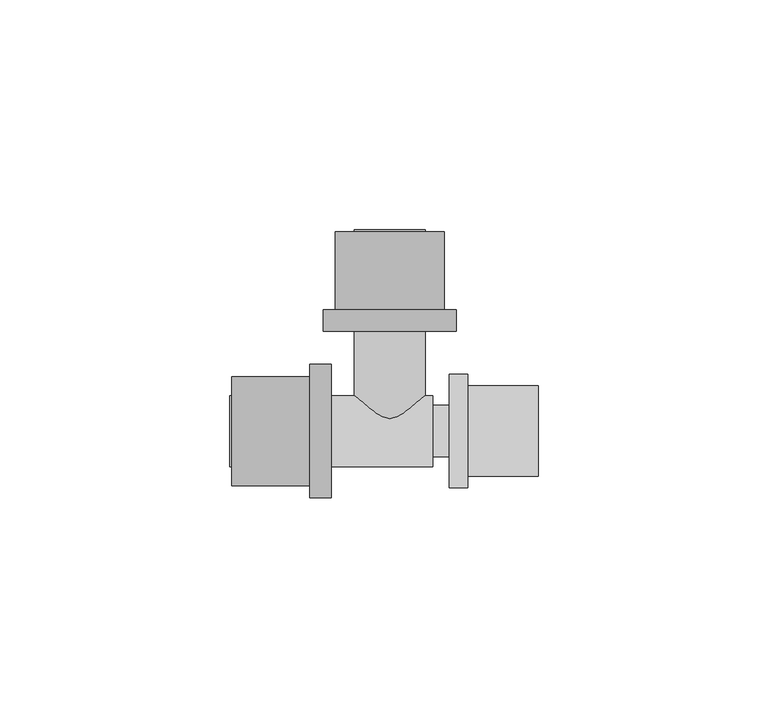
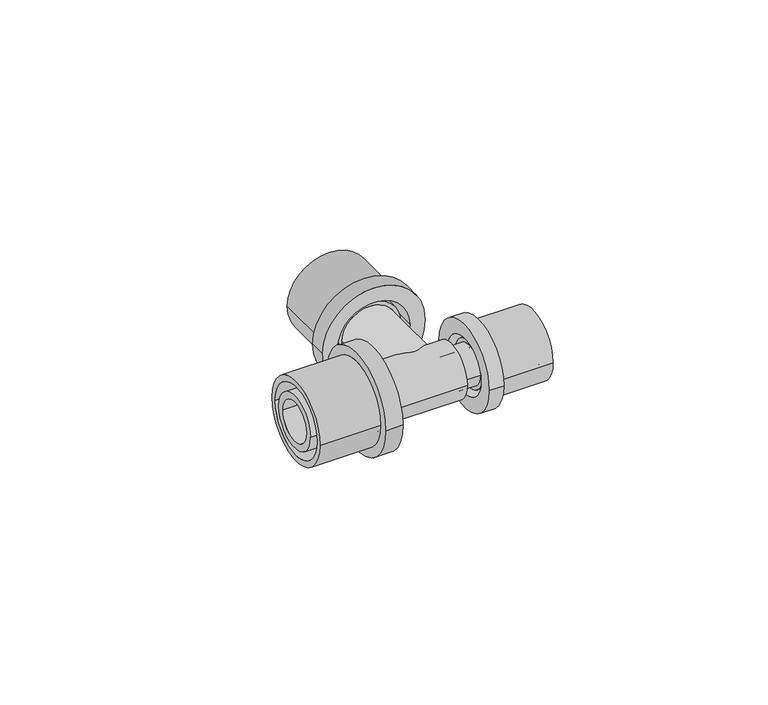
"""IFC4 building model written with IfcOpenShell, lengths in millimetres: pipe fitting geometry, FASTLOC_T-piece_EX+ : FSL T-Piece EX+ AT."""

from ifc_helpers import new_model, si_unit, frame, origin, place, context, project, spatial, polyline, circle_curve, source, transform, mapped, element, save
from ifc_brep_helpers import plane_surface, cylinder_surface, revolved_surface, advanced_brep


def pipe_fitting_0153befe(model_context):
    return source(origin(), model_context, "Body", "AdvancedBrep", [
        advanced_brep(
        [(17.0, 12.35, 0.0), (17.0, -12.35, 0.0), (13.0, -12.35, 0.0), (13.0, 12.35, 0.0), (32.3, 9.85, 0.0), (32.3, -9.85, 0.0), (17.0, -9.85, 0.0), (17.0, 9.85, 0.0), (13.0, 8.15, 0.0), (13.0, -8.15, 0.0), (32.3, -8.15, 0.0), (32.3, 8.15, 0.0)],
        [
            (0, 1, circle_curve(frame((17.0, 0.0, 0.0), z_axis=(-1.0, 0.0, 0.0), x_axis=(0.0, -1.0, 0.0)), 12.35)),
            (1, 2),
            (2, 3, circle_curve(frame((13.0, 0.0, 0.0), z_axis=(1.0, 0.0, 0.0), x_axis=(0.0, -1.0, 0.0)), 12.35)),
            (3, 0),
            (4, 5, circle_curve(frame((32.3, 0.0, 0.0), z_axis=(-1.0, 0.0, 0.0), x_axis=(0.0, -1.0, 0.0)), 9.85)),
            (5, 6),
            (6, 7, circle_curve(frame((17.0, 0.0, 0.0), z_axis=(1.0, 0.0, 0.0), x_axis=(0.0, -1.0, 0.0)), 9.85)),
            (7, 4),
            (8, 9, circle_curve(frame((13.0, 0.0, 0.0), z_axis=(-1.0, 0.0, 0.0), x_axis=(0.0, -1.0, 0.0)), 8.15)),
            (9, 10),
            (10, 11, circle_curve(frame((32.3, 0.0, 0.0), z_axis=(1.0, 0.0, 0.0), x_axis=(0.0, -1.0, 0.0)), 8.15)),
            (11, 8),
            (1, 0, circle_curve(frame((17.0, 0.0, 0.0), z_axis=(-1.0, 0.0, 0.0), x_axis=(0.0, 1.0, 0.0)), 12.35)),
            (3, 2, circle_curve(frame((13.0, 0.0, 0.0), z_axis=(1.0, 0.0, 0.0), x_axis=(0.0, 1.0, 0.0)), 12.35)),
            (6, 7, circle_curve(frame((17.0, 0.0, 0.0), z_axis=(-1.0, 0.0, 0.0), x_axis=(0.0, 1.0, 0.0)), 9.85)),
            (5, 4, circle_curve(frame((32.3, 0.0, 0.0), z_axis=(-1.0, 0.0, 0.0), x_axis=(0.0, 1.0, 0.0)), 9.85)),
            (10, 11, circle_curve(frame((32.3, 0.0, 0.0), z_axis=(-1.0, 0.0, 0.0), x_axis=(0.0, 1.0, 0.0)), 8.15)),
            (9, 8, circle_curve(frame((13.0, 0.0, 0.0), z_axis=(-1.0, 0.0, 0.0), x_axis=(0.0, 1.0, 0.0)), 8.15)),
        ],
        [
            cylinder_surface(frame((13.0, 0.0, 0.0), z_axis=(1.0, 0.0, 0.0), x_axis=(0.0, -1.0, 0.0)), 12.35),
            cylinder_surface(frame((13.0, 0.0, 0.0), z_axis=(1.0, 0.0, 0.0), x_axis=(0.0, -1.0, 0.0)), 9.85),
            revolved_surface(polyline([(32.3, -8.15, 0.0), (13.0, -8.15, 0.0)]), (13.0, 0.0, 0.0), (1.0, 0.0, 0.0)),
            cylinder_surface(frame((13.0, 0.0, 0.0), z_axis=(1.0, 0.0, 0.0), x_axis=(0.0, 1.0, 0.0)), 12.35),
            plane_surface(frame((17.0, 0.0, 0.0), z_axis=(1.0, 0.0, 0.0), x_axis=(0.0, 1.0, 0.0))),
            cylinder_surface(frame((13.0, 0.0, 0.0), z_axis=(1.0, 0.0, 0.0), x_axis=(0.0, 1.0, 0.0)), 9.85),
            plane_surface(frame((32.3, 0.0, 0.0), z_axis=(1.0, 0.0, 0.0), x_axis=(0.0, 1.0, 0.0))),
            revolved_surface(polyline([(32.3, 8.15, 0.0), (13.0, 8.15, 0.0)]), (13.0, 0.0, 0.0), (1.0, 0.0, 0.0)),
            plane_surface(frame((13.0, 0.0, 0.0), z_axis=(-1.0, 0.0, 0.0), x_axis=(0.0, 1.0, 0.0))),
        ],
        [
            (0, [[1, 2, 3, 4]]),
            (1, [[5, 6, 7, 8]]),
            (2, [[9, 10, 11, 12]]),
            (3, [[13, -4, 14, -2]]),
            (4, [[-13, -1], [15, -7]]),
            (5, [[16, -8, -15, -6]]),
            (6, [[-16, -5], [17, -11]]),
            (7, [[18, -12, -17, -10]]),
            (8, [[-14, -3], [-18, -9]]),
        ],
    ),
        advanced_brep(
        [(-17.4, -14.5, 0.0), (-17.4, 14.5, 0.0), (-12.7, 14.5, 0.0), (-12.7, -14.5, 0.0), (-34.4, -11.85, 0.0), (-34.4, 11.85, 0.0), (-17.4, 11.85, 0.0), (-17.4, -11.85, 0.0), (-12.7, -10.15, 0.0), (-12.7, 10.15, 0.0), (-34.4, 10.15, 0.0), (-34.4, -10.15, 0.0)],
        [
            (0, 1, circle_curve(frame((-17.4, 0.0, 0.0), z_axis=(1.0, 0.0, 0.0), x_axis=(0.0, 1.0, 0.0)), 14.5)),
            (1, 2),
            (2, 3, circle_curve(frame((-12.7, 0.0, 0.0), z_axis=(-1.0, 0.0, 0.0), x_axis=(0.0, 1.0, 0.0)), 14.5)),
            (3, 0),
            (4, 5, circle_curve(frame((-34.4, 0.0, 0.0), z_axis=(1.0, 0.0, 0.0), x_axis=(0.0, 1.0, 0.0)), 11.85)),
            (5, 6),
            (6, 7, circle_curve(frame((-17.4, 0.0, 0.0), z_axis=(-1.0, 0.0, 0.0), x_axis=(0.0, 1.0, 0.0)), 11.85)),
            (7, 4),
            (8, 9, circle_curve(frame((-12.7, 0.0, 0.0), z_axis=(1.0, 0.0, 0.0), x_axis=(0.0, 1.0, 0.0)), 10.15)),
            (9, 10),
            (10, 11, circle_curve(frame((-34.4, 0.0, 0.0), z_axis=(-1.0, 0.0, 0.0), x_axis=(0.0, 1.0, 0.0)), 10.15)),
            (11, 8),
            (1, 0, circle_curve(frame((-17.4, 0.0, 0.0), z_axis=(1.0, 0.0, 0.0), x_axis=(0.0, -1.0, 0.0)), 14.5)),
            (3, 2, circle_curve(frame((-12.7, 0.0, 0.0), z_axis=(-1.0, 0.0, 0.0), x_axis=(0.0, -1.0, 0.0)), 14.5)),
            (6, 7, circle_curve(frame((-17.4, 0.0, 0.0), z_axis=(1.0, 0.0, 0.0), x_axis=(0.0, -1.0, 0.0)), 11.85)),
            (5, 4, circle_curve(frame((-34.4, 0.0, 0.0), z_axis=(1.0, 0.0, 0.0), x_axis=(0.0, -1.0, 0.0)), 11.85)),
            (10, 11, circle_curve(frame((-34.4, 0.0, 0.0), z_axis=(1.0, 0.0, 0.0), x_axis=(0.0, -1.0, 0.0)), 10.15)),
            (9, 8, circle_curve(frame((-12.7, 0.0, 0.0), z_axis=(1.0, 0.0, 0.0), x_axis=(0.0, -1.0, 0.0)), 10.15)),
        ],
        [
            cylinder_surface(frame((-12.7, 0.0, 0.0), z_axis=(-1.0, 0.0, 0.0), x_axis=(0.0, 1.0, 0.0)), 14.5),
            cylinder_surface(frame((-12.7, 0.0, 0.0), z_axis=(-1.0, 0.0, 0.0), x_axis=(0.0, 1.0, 0.0)), 11.85),
            revolved_surface(polyline([(-34.4, 10.15, 0.0), (-12.7, 10.15, 0.0)]), (-12.7, 0.0, 0.0), (-1.0, 0.0, 0.0)),
            cylinder_surface(frame((-12.7, 0.0, 0.0), z_axis=(-1.0, 0.0, 0.0), x_axis=(0.0, -1.0, 0.0)), 14.5),
            plane_surface(frame((-17.4, 0.0, 0.0), z_axis=(-1.0, 0.0, 0.0), x_axis=(0.0, -1.0, 0.0))),
            cylinder_surface(frame((-12.7, 0.0, 0.0), z_axis=(-1.0, 0.0, 0.0), x_axis=(0.0, -1.0, 0.0)), 11.85),
            plane_surface(frame((-34.4, 0.0, 0.0), z_axis=(-1.0, 0.0, 0.0), x_axis=(0.0, -1.0, 0.0))),
            revolved_surface(polyline([(-34.4, -10.15, 0.0), (-12.7, -10.15, 0.0)]), (-12.7, 0.0, 0.0), (-1.0, 0.0, 0.0)),
            plane_surface(frame((-12.7, 0.0, 0.0), z_axis=(1.0, 0.0, 0.0), x_axis=(0.0, -1.0, 0.0))),
        ],
        [
            (0, [[1, 2, 3, 4]]),
            (1, [[5, 6, 7, 8]]),
            (2, [[9, 10, 11, 12]]),
            (3, [[13, -4, 14, -2]]),
            (4, [[-13, -1], [15, -7]]),
            (5, [[16, -8, -15, -6]]),
            (6, [[-16, -5], [17, -11]]),
            (7, [[18, -12, -17, -10]]),
            (8, [[-14, -3], [-18, -9]]),
        ],
    ),
        advanced_brep(
        [(-14.5, 26.4, 0.0), (14.5, 26.4, 0.0), (14.5, 21.7, 0.0), (-14.5, 21.7, 0.0), (-11.85, 43.4, 0.0), (11.85, 43.4, 0.0), (11.85, 26.4, 0.0), (-11.85, 26.4, 0.0), (-10.15, 21.7, 0.0), (10.15, 21.7, 0.0), (10.15, 43.4, 0.0), (-10.15, 43.4, 0.0)],
        [
            (0, 1, circle_curve(frame((0.0, 26.4, 0.0), z_axis=(0.0, -1.0, 0.0), x_axis=(1.0, 0.0, 0.0)), 14.5)),
            (1, 2),
            (2, 3, circle_curve(frame((0.0, 21.7, 0.0), z_axis=(0.0, 1.0, 0.0), x_axis=(1.0, 0.0, 0.0)), 14.5)),
            (3, 0),
            (4, 5, circle_curve(frame((0.0, 43.4, 0.0), z_axis=(0.0, -1.0, 0.0), x_axis=(1.0, 0.0, 0.0)), 11.85)),
            (5, 6),
            (6, 7, circle_curve(frame((0.0, 26.4, 0.0), z_axis=(0.0, 1.0, 0.0), x_axis=(1.0, 0.0, 0.0)), 11.85)),
            (7, 4),
            (8, 9, circle_curve(frame((0.0, 21.7, 0.0), z_axis=(0.0, -1.0, 0.0), x_axis=(1.0, 0.0, 0.0)), 10.15)),
            (9, 10),
            (10, 11, circle_curve(frame((0.0, 43.4, 0.0), z_axis=(0.0, 1.0, 0.0), x_axis=(1.0, 0.0, 0.0)), 10.15)),
            (11, 8),
            (1, 0, circle_curve(frame((0.0, 26.4, 0.0), z_axis=(0.0, -1.0, 0.0), x_axis=(-1.0, 0.0, 0.0)), 14.5)),
            (3, 2, circle_curve(frame((0.0, 21.7, 0.0), z_axis=(0.0, 1.0, 0.0), x_axis=(-1.0, 0.0, 0.0)), 14.5)),
            (6, 7, circle_curve(frame((0.0, 26.4, 0.0), z_axis=(0.0, -1.0, 0.0), x_axis=(-1.0, 0.0, 0.0)), 11.85)),
            (5, 4, circle_curve(frame((0.0, 43.4, 0.0), z_axis=(0.0, -1.0, 0.0), x_axis=(-1.0, 0.0, 0.0)), 11.85)),
            (10, 11, circle_curve(frame((0.0, 43.4, 0.0), z_axis=(0.0, -1.0, 0.0), x_axis=(-1.0, 0.0, 0.0)), 10.15)),
            (9, 8, circle_curve(frame((0.0, 21.7, 0.0), z_axis=(0.0, -1.0, 0.0), x_axis=(-1.0, 0.0, 0.0)), 10.15)),
        ],
        [
            cylinder_surface(frame((0.0, 21.7, 0.0), z_axis=(0.0, 1.0, 0.0), x_axis=(1.0, 0.0, 0.0)), 14.5),
            cylinder_surface(frame((0.0, 21.7, 0.0), z_axis=(0.0, 1.0, 0.0), x_axis=(1.0, 0.0, 0.0)), 11.85),
            revolved_surface(polyline([(10.15, 43.4, 0.0), (10.15, 21.7, 0.0)]), (0.0, 21.7, 0.0), (0.0, 1.0, 0.0)),
            cylinder_surface(frame((0.0, 21.7, 0.0), z_axis=(0.0, 1.0, 0.0), x_axis=(-1.0, 0.0, 0.0)), 14.5),
            plane_surface(frame((0.0, 26.4, 0.0), z_axis=(0.0, 1.0, 0.0), x_axis=(-1.0, 0.0, 0.0))),
            cylinder_surface(frame((0.0, 21.7, 0.0), z_axis=(0.0, 1.0, 0.0), x_axis=(-1.0, 0.0, 0.0)), 11.85),
            plane_surface(frame((0.0, 43.4, 0.0), z_axis=(0.0, 1.0, 0.0), x_axis=(-1.0, 0.0, 0.0))),
            revolved_surface(polyline([(-10.15, 43.4, 0.0), (-10.15, 21.7, 0.0)]), (0.0, 21.7, 0.0), (0.0, 1.0, 0.0)),
            plane_surface(frame((0.0, 21.7, 0.0), z_axis=(0.0, -1.0, 0.0), x_axis=(-1.0, 0.0, 0.0))),
        ],
        [
            (0, [[1, 2, 3, 4]]),
            (1, [[5, 6, 7, 8]]),
            (2, [[9, 10, 11, 12]]),
            (3, [[13, -4, 14, -2]]),
            (4, [[-13, -1], [15, -7]]),
            (5, [[16, -8, -15, -6]]),
            (6, [[-16, -5], [17, -11]]),
            (7, [[18, -12, -17, -10]]),
            (8, [[-14, -3], [-18, -9]]),
        ],
    ),
        advanced_brep(
        [(14.29, 5.6, 0.0), (14.29, -5.6, 0.0), (9.35, -5.6, 0.0), (9.35, 5.6, 0.0), (17.0, 6.7, 0.0), (17.0, -6.7, 0.0), (14.29, -6.7, 0.0), (14.29, 6.7, 0.0), (32.0, 5.6, 0.0), (32.0, -5.6, 0.0), (17.0, -5.6, 0.0), (17.0, 5.6, 0.0), (7.5, 3.75, 0.0), (7.5, -3.75, 0.0), (32.0, -3.75, 0.0), (32.0, 3.75, 0.0), (-34.8, 5.75, 0.0), (-34.8, -5.75, 0.0), (7.5, -5.75, 0.0), (7.5, 5.75, 0.0), (-17.4, 7.75, 0.0), (-17.4, -7.75, 0.0), (-34.8, -7.75, 0.0), (-34.8, 7.75, 0.0), (-14.73, 8.8, 0.0), (-14.73, -8.8, 0.0), (-17.4, -8.8, 0.0), (-17.4, 8.8, 0.0), (9.35, 7.75, 0.0), (9.35, -7.75, 0.0), (-14.73, -7.75, 0.0), (-14.73, 7.75, 0.0)],
        [
            (0, 1, circle_curve(frame((14.29, 0.0, 0.0), z_axis=(-1.0, 0.0, 0.0), x_axis=(0.0, -1.0, 0.0)), 5.6)),
            (1, 2),
            (2, 3, circle_curve(frame((9.35, 0.0, 0.0), z_axis=(1.0, 0.0, 0.0), x_axis=(0.0, -1.0, 0.0)), 5.6)),
            (3, 0),
            (4, 5, circle_curve(frame((17.0, 0.0, 0.0), z_axis=(-1.0, 0.0, 0.0), x_axis=(0.0, -1.0, 0.0)), 6.7)),
            (5, 6),
            (6, 7, circle_curve(frame((14.29, 0.0, 0.0), z_axis=(1.0, 0.0, 0.0), x_axis=(0.0, -1.0, 0.0)), 6.7)),
            (7, 4),
            (8, 9, circle_curve(frame((32.0, 0.0, 0.0), z_axis=(-1.0, 0.0, 0.0), x_axis=(0.0, -1.0, 0.0)), 5.6)),
            (9, 10),
            (10, 11, circle_curve(frame((17.0, 0.0, 0.0), z_axis=(1.0, 0.0, 0.0), x_axis=(0.0, -1.0, 0.0)), 5.6)),
            (11, 8),
            (12, 13, circle_curve(frame((7.5, 0.0, 0.0), z_axis=(-1.0, 0.0, 0.0), x_axis=(0.0, -1.0, 0.0)), 3.75)),
            (13, 14),
            (14, 15, circle_curve(frame((32.0, 0.0, 0.0), z_axis=(1.0, 0.0, 0.0), x_axis=(0.0, -1.0, 0.0)), 3.75)),
            (15, 12),
            (16, 17, circle_curve(frame((-34.8, 0.0, 0.0), z_axis=(-1.0, 0.0, 0.0), x_axis=(0.0, -1.0, 0.0)), 5.75)),
            (17, 18),
            (18, 19, circle_curve(frame((7.5, 0.0, 0.0), z_axis=(1.0, 0.0, 0.0), x_axis=(0.0, -1.0, 0.0)), 5.75)),
            (19, 16),
            (20, 21, circle_curve(frame((-17.4, 0.0, 0.0), z_axis=(-1.0, 0.0, 0.0), x_axis=(0.0, -1.0, 0.0)), 7.75)),
            (21, 22),
            (22, 23, circle_curve(frame((-34.8, 0.0, 0.0), z_axis=(1.0, 0.0, 0.0), x_axis=(0.0, -1.0, 0.0)), 7.75)),
            (23, 20),
            (24, 25, circle_curve(frame((-14.73, 0.0, 0.0), z_axis=(-1.0, 0.0, 0.0), x_axis=(0.0, -1.0, 0.0)), 8.8)),
            (25, 26),
            (26, 27, circle_curve(frame((-17.4, 0.0, 0.0), z_axis=(1.0, 0.0, 0.0), x_axis=(0.0, -1.0, 0.0)), 8.8)),
            (27, 24),
            (28, 29, circle_curve(frame((9.35, 0.0, 0.0), z_axis=(-1.0, 0.0, 0.0), x_axis=(0.0, -1.0, 0.0)), 7.75)),
            (29, 30),
            (30, 31, circle_curve(frame((-14.73, 0.0, 0.0), z_axis=(1.0, 0.0, 0.0), x_axis=(0.0, -1.0, 0.0)), 7.75)),
            (31, 28),
            (28, 29, circle_curve(frame((9.35, 0.0, 0.0), z_axis=(1.0, 0.0, 0.0), x_axis=(0.0, 1.0, 0.0)), 7.75)),
            (2, 3, circle_curve(frame((9.35, 0.0, 0.0), z_axis=(-1.0, 0.0, 0.0), x_axis=(0.0, 1.0, 0.0)), 5.6)),
            (1, 0, circle_curve(frame((14.29, 0.0, 0.0), z_axis=(-1.0, 0.0, 0.0), x_axis=(0.0, 1.0, 0.0)), 5.6)),
            (6, 7, circle_curve(frame((14.29, 0.0, 0.0), z_axis=(-1.0, 0.0, 0.0), x_axis=(0.0, 1.0, 0.0)), 6.7)),
            (5, 4, circle_curve(frame((17.0, 0.0, 0.0), z_axis=(-1.0, 0.0, 0.0), x_axis=(0.0, 1.0, 0.0)), 6.7)),
            (10, 11, circle_curve(frame((17.0, 0.0, 0.0), z_axis=(-1.0, 0.0, 0.0), x_axis=(0.0, 1.0, 0.0)), 5.6)),
            (9, 8, circle_curve(frame((32.0, 0.0, 0.0), z_axis=(-1.0, 0.0, 0.0), x_axis=(0.0, 1.0, 0.0)), 5.6)),
            (14, 15, circle_curve(frame((32.0, 0.0, 0.0), z_axis=(-1.0, 0.0, 0.0), x_axis=(0.0, 1.0, 0.0)), 3.75)),
            (13, 12, circle_curve(frame((7.5, 0.0, 0.0), z_axis=(-1.0, 0.0, 0.0), x_axis=(0.0, 1.0, 0.0)), 3.75)),
            (18, 19, circle_curve(frame((7.5, 0.0, 0.0), z_axis=(-1.0, 0.0, 0.0), x_axis=(0.0, 1.0, 0.0)), 5.75)),
            (17, 16, circle_curve(frame((-34.8, 0.0, 0.0), z_axis=(-1.0, 0.0, 0.0), x_axis=(0.0, 1.0, 0.0)), 5.75)),
            (22, 23, circle_curve(frame((-34.8, 0.0, 0.0), z_axis=(-1.0, 0.0, 0.0), x_axis=(0.0, 1.0, 0.0)), 7.75)),
            (21, 20, circle_curve(frame((-17.4, 0.0, 0.0), z_axis=(-1.0, 0.0, 0.0), x_axis=(0.0, 1.0, 0.0)), 7.75)),
            (26, 27, circle_curve(frame((-17.4, 0.0, 0.0), z_axis=(-1.0, 0.0, 0.0), x_axis=(0.0, 1.0, 0.0)), 8.8)),
            (25, 24, circle_curve(frame((-14.73, 0.0, 0.0), z_axis=(-1.0, 0.0, 0.0), x_axis=(0.0, 1.0, 0.0)), 8.8)),
            (30, 31, circle_curve(frame((-14.73, 0.0, 0.0), z_axis=(-1.0, 0.0, 0.0), x_axis=(0.0, 1.0, 0.0)), 7.75)),
        ],
        [
            cylinder_surface(frame((0.0, 0.0, 0.0), z_axis=(1.0, 0.0, 0.0), x_axis=(0.0, -1.0, 0.0)), 5.6),
            cylinder_surface(frame((0.0, 0.0, 0.0), z_axis=(1.0, 0.0, 0.0), x_axis=(0.0, -1.0, 0.0)), 6.7),
            revolved_surface(polyline([(32.0, -3.75, 0.0), (7.5, -3.75, 0.0)]), (0.0, 0.0, 0.0), (1.0, 0.0, 0.0)),
            revolved_surface(polyline([(7.5, -5.75, 0.0), (-34.8, -5.75, 0.0)]), (0.0, 0.0, 0.0), (1.0, 0.0, 0.0)),
            cylinder_surface(frame((0.0, 0.0, 0.0), z_axis=(1.0, 0.0, 0.0), x_axis=(0.0, -1.0, 0.0)), 7.75),
            cylinder_surface(frame((0.0, 0.0, 0.0), z_axis=(1.0, 0.0, 0.0), x_axis=(0.0, -1.0, 0.0)), 8.8),
            plane_surface(frame((9.35, 0.0, 0.0), z_axis=(1.0, 0.0, 0.0), x_axis=(0.0, 1.0, 0.0))),
            cylinder_surface(frame((0.0, 0.0, 0.0), z_axis=(1.0, 0.0, 0.0), x_axis=(0.0, 1.0, 0.0)), 5.6),
            plane_surface(frame((14.29, 0.0, 0.0), z_axis=(-1.0, 0.0, 0.0), x_axis=(0.0, 1.0, 0.0))),
            cylinder_surface(frame((0.0, 0.0, 0.0), z_axis=(1.0, 0.0, 0.0), x_axis=(0.0, 1.0, 0.0)), 6.7),
            plane_surface(frame((17.0, 0.0, 0.0), z_axis=(1.0, 0.0, 0.0), x_axis=(0.0, 1.0, 0.0))),
            plane_surface(frame((32.0, 0.0, 0.0), z_axis=(1.0, 0.0, 0.0), x_axis=(0.0, 1.0, 0.0))),
            revolved_surface(polyline([(32.0, 3.75, 0.0), (7.5, 3.75, 0.0)]), (0.0, 0.0, 0.0), (1.0, 0.0, 0.0)),
            plane_surface(frame((7.5, 0.0, 0.0), z_axis=(-1.0, 0.0, 0.0), x_axis=(0.0, 1.0, 0.0))),
            revolved_surface(polyline([(7.5, 5.75, 0.0), (-34.8, 5.75, 0.0)]), (0.0, 0.0, 0.0), (1.0, 0.0, 0.0)),
            plane_surface(frame((-34.8, 0.0, 0.0), z_axis=(-1.0, 0.0, 0.0), x_axis=(0.0, 1.0, 0.0))),
            cylinder_surface(frame((0.0, 0.0, 0.0), z_axis=(1.0, 0.0, 0.0), x_axis=(0.0, 1.0, 0.0)), 7.75),
            plane_surface(frame((-17.4, 0.0, 0.0), z_axis=(-1.0, 0.0, 0.0), x_axis=(0.0, 1.0, 0.0))),
            cylinder_surface(frame((0.0, 0.0, 0.0), z_axis=(1.0, 0.0, 0.0), x_axis=(0.0, 1.0, 0.0)), 8.8),
            plane_surface(frame((-14.73, 0.0, 0.0), z_axis=(1.0, 0.0, 0.0), x_axis=(0.0, 1.0, 0.0))),
        ],
        [
            (0, [[1, 2, 3, 4]]),
            (1, [[5, 6, 7, 8]]),
            (0, [[9, 10, 11, 12]]),
            (2, [[13, 14, 15, 16]]),
            (3, [[17, 18, 19, 20]]),
            (4, [[21, 22, 23, 24]]),
            (5, [[25, 26, 27, 28]]),
            (4, [[29, 30, 31, 32]]),
            (6, [[33, -29], [34, -3]]),
            (7, [[35, -4, -34, -2]]),
            (8, [[36, -7], [-35, -1]]),
            (9, [[37, -8, -36, -6]]),
            (10, [[-37, -5], [38, -11]]),
            (7, [[39, -12, -38, -10]]),
            (11, [[-39, -9], [40, -15]]),
            (12, [[41, -16, -40, -14]]),
            (13, [[42, -19], [-41, -13]]),
            (14, [[43, -20, -42, -18]]),
            (15, [[44, -23], [-43, -17]]),
            (16, [[45, -24, -44, -22]]),
            (17, [[46, -27], [-45, -21]]),
            (18, [[47, -28, -46, -26]]),
            (19, [[-47, -25], [48, -31]]),
            (16, [[-33, -32, -48, -30]]),
        ],
    ),
        advanced_brep(
        [(5.75, 43.8, 0.0), (-5.75, 43.8, 0.0), (-5.75, 0.0, 0.0), (5.75, 0.0, 0.0), (7.75, 0.0, 0.0), (-7.75, 0.0, 0.0), (-7.75, 23.73, 0.0), (7.75, 23.73, 0.0), (8.8, 23.73, 0.0), (-8.8, 23.73, 0.0), (-8.8, 26.4, 0.0), (8.8, 26.4, 0.0), (7.75, 26.4, 0.0), (-7.75, 26.4, 0.0), (-7.75, 43.8, 0.0), (7.75, 43.8, 0.0)],
        [
            (0, 1, circle_curve(frame((0.0, 43.8, 0.0), z_axis=(0.0, 1.0, 0.0), x_axis=(-1.0, 0.0, 0.0)), 5.75)),
            (1, 2),
            (2, 3, circle_curve(frame((0.0, 0.0, 0.0), z_axis=(0.0, -1.0, 0.0), x_axis=(-1.0, 0.0, 0.0)), 5.75)),
            (3, 0),
            (4, 5, circle_curve(frame((0.0, 0.0, 0.0), z_axis=(0.0, 1.0, 0.0), x_axis=(-1.0, 0.0, 0.0)), 7.75)),
            (5, 6),
            (6, 7, circle_curve(frame((0.0, 23.73, 0.0), z_axis=(0.0, -1.0, 0.0), x_axis=(-1.0, 0.0, 0.0)), 7.75)),
            (7, 4),
            (8, 9, circle_curve(frame((0.0, 23.73, 0.0), z_axis=(0.0, 1.0, 0.0), x_axis=(-1.0, 0.0, 0.0)), 8.8)),
            (9, 10),
            (10, 11, circle_curve(frame((0.0, 26.4, 0.0), z_axis=(0.0, -1.0, 0.0), x_axis=(-1.0, 0.0, 0.0)), 8.8)),
            (11, 8),
            (12, 13, circle_curve(frame((0.0, 26.4, 0.0), z_axis=(0.0, 1.0, 0.0), x_axis=(-1.0, 0.0, 0.0)), 7.75)),
            (13, 14),
            (14, 15, circle_curve(frame((0.0, 43.8, 0.0), z_axis=(0.0, -1.0, 0.0), x_axis=(-1.0, 0.0, 0.0)), 7.75)),
            (15, 12),
            (1, 0, circle_curve(frame((0.0, 43.8, 0.0), z_axis=(0.0, 1.0, 0.0), x_axis=(1.0, 0.0, 0.0)), 5.75)),
            (3, 2, circle_curve(frame((0.0, 0.0, 0.0), z_axis=(0.0, -1.0, 0.0), x_axis=(1.0, 0.0, 0.0)), 5.75)),
            (4, 5, circle_curve(frame((0.0, 0.0, 0.0), z_axis=(0.0, -1.0, 0.0), x_axis=(1.0, 0.0, 0.0)), 7.75)),
            (7, 6, circle_curve(frame((0.0, 23.73, 0.0), z_axis=(0.0, -1.0, 0.0), x_axis=(1.0, 0.0, 0.0)), 7.75)),
            (8, 9, circle_curve(frame((0.0, 23.73, 0.0), z_axis=(0.0, -1.0, 0.0), x_axis=(1.0, 0.0, 0.0)), 8.8)),
            (11, 10, circle_curve(frame((0.0, 26.4, 0.0), z_axis=(0.0, -1.0, 0.0), x_axis=(1.0, 0.0, 0.0)), 8.8)),
            (12, 13, circle_curve(frame((0.0, 26.4, 0.0), z_axis=(0.0, -1.0, 0.0), x_axis=(1.0, 0.0, 0.0)), 7.75)),
            (15, 14, circle_curve(frame((0.0, 43.8, 0.0), z_axis=(0.0, -1.0, 0.0), x_axis=(1.0, 0.0, 0.0)), 7.75)),
        ],
        [
            revolved_surface(polyline([(-5.75, 0.0, 0.0), (-5.75, 43.8, 0.0)]), (0.0, 0.0, 0.0), (0.0, -1.0, 0.0)),
            cylinder_surface(frame((0.0, 0.0, 0.0), z_axis=(0.0, -1.0, 0.0), x_axis=(-1.0, 0.0, 0.0)), 7.75),
            cylinder_surface(frame((0.0, 0.0, 0.0), z_axis=(0.0, -1.0, 0.0), x_axis=(-1.0, 0.0, 0.0)), 8.8),
            revolved_surface(polyline([(5.75, 0.0, 0.0), (5.75, 43.8, 0.0)]), (0.0, 0.0, 0.0), (0.0, -1.0, 0.0)),
            plane_surface(frame((0.0, 0.0, 0.0), z_axis=(0.0, -1.0, 0.0), x_axis=(1.0, 0.0, 0.0))),
            cylinder_surface(frame((0.0, 0.0, 0.0), z_axis=(0.0, -1.0, 0.0), x_axis=(1.0, 0.0, 0.0)), 7.75),
            plane_surface(frame((0.0, 23.73, 0.0), z_axis=(0.0, -1.0, 0.0), x_axis=(1.0, 0.0, 0.0))),
            cylinder_surface(frame((0.0, 0.0, 0.0), z_axis=(0.0, -1.0, 0.0), x_axis=(1.0, 0.0, 0.0)), 8.8),
            plane_surface(frame((0.0, 26.4, 0.0), z_axis=(0.0, 1.0, 0.0), x_axis=(1.0, 0.0, 0.0))),
            plane_surface(frame((0.0, 43.8, 0.0), z_axis=(0.0, 1.0, 0.0), x_axis=(1.0, 0.0, 0.0))),
        ],
        [
            (0, [[1, 2, 3, 4]]),
            (1, [[5, 6, 7, 8]]),
            (2, [[9, 10, 11, 12]]),
            (1, [[13, 14, 15, 16]]),
            (3, [[17, -4, 18, -2]]),
            (4, [[19, -5], [-18, -3]]),
            (5, [[-19, -8, 20, -6]]),
            (6, [[21, -9], [-20, -7]]),
            (7, [[-21, -12, 22, -10]]),
            (8, [[-22, -11], [23, -13]]),
            (5, [[-23, -16, 24, -14]]),
            (9, [[-24, -15], [-17, -1]]),
        ],
    ),
    ])


if __name__ == "__main__":
    model = new_model("IFC4")
    model_context = context("Model", 3, world=origin())
    ifc_project = project(units=[si_unit("LENGTHUNIT", "METRE", prefix="MILLI")], contexts=[model_context])
    site = spatial("IfcSite", under=ifc_project)
    building = spatial("IfcBuilding", under=site)
    placement = place(None, origin())
    pipe_fitting_shape = pipe_fitting_0153befe(model_context)
    element("IfcPipeFitting", 1, ObjectType="FASTLOC_T-piece_EX+ : FSL T-Piece EX+ AT", at=placement, inside=building, context=model_context, shape_type="MappedRepresentation", body=[
        mapped(pipe_fitting_shape, transform((0.0, 0.0, 0.0), x_axis=(1.0, 0.0, 0.0), y_axis=(0.0, 1.0, 0.0), z_axis=(0.0, 0.0, 1.0))),
    ])
    save(model, "model.ifc")
